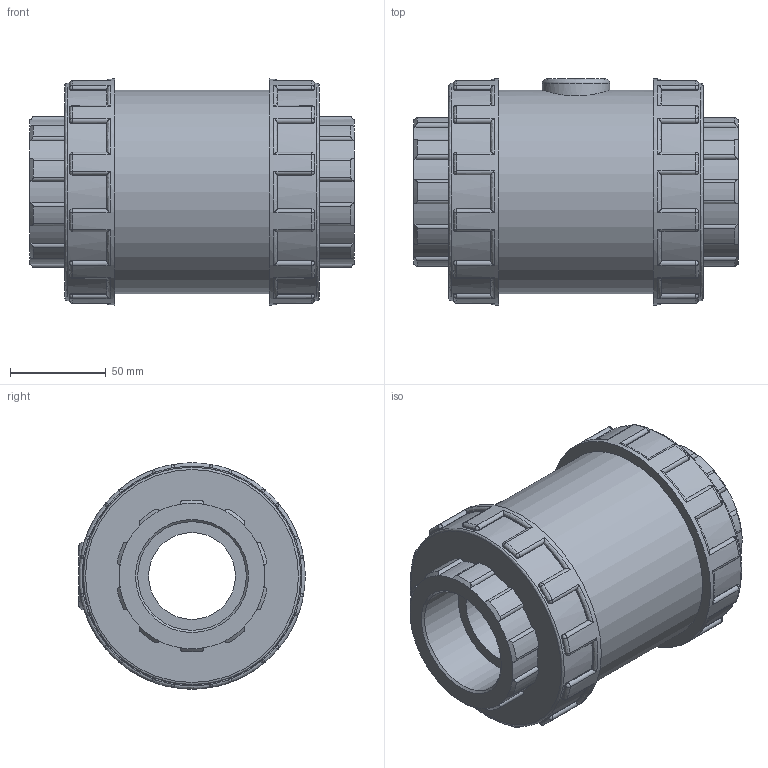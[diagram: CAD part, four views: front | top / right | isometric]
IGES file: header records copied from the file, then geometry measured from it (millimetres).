
Global section: file name: 116410020.ipt; native system: Autodesk Inventor 2015; preprocessor: unknown; author: KIM; date: 20171207.170715; units: millimetre
Bounding box: 169 x 118 x 118 mm (x, y, z)
Volume: 1115547.5 mm3; surface area: 104861.5 mm2
Topology: 1 solids, 1 shells, 411 faces, 1033 edges, 630 vertices
Faces by surface type: cylinder 182, plane 105, revolution 56, sphere 48, cone 20
Full cylindrical faces by diameter (mm): 35.4 x1, 106.2 x1, 113.28 x2, 118 x2
